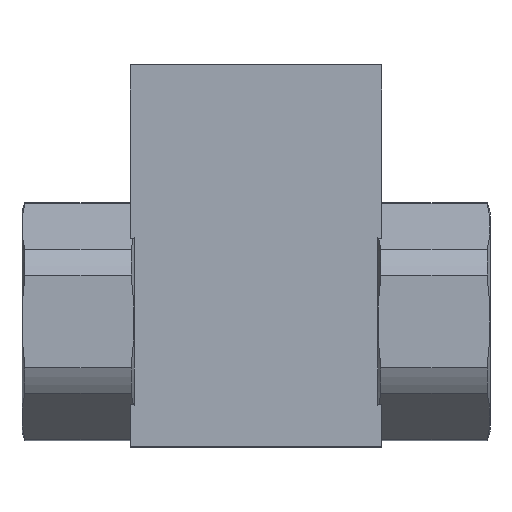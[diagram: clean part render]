
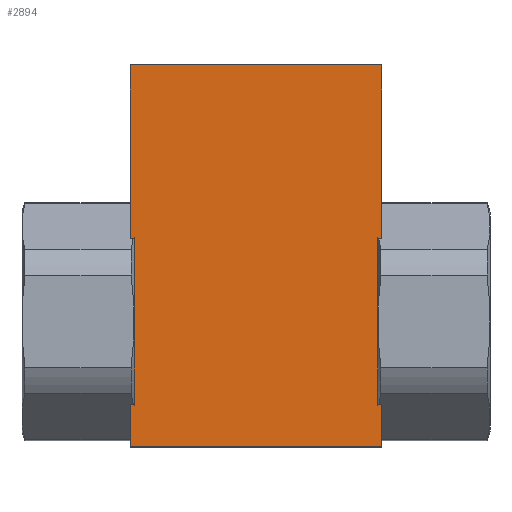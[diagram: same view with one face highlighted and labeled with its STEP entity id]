
A CAD part, top view. The second image highlights one B-rep face of the part: STEP entity #2894.
In plain terms, the highlighted planar face has unit normal (0, 0, 1).
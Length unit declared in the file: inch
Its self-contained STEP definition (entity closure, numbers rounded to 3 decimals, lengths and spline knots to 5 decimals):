
#293=DIRECTION('',(1.,0.,0.));
#294=VECTOR('',#293,1.005);
#295=CARTESIAN_POINT('',(-0.5025,-0.5,0.5));
#296=LINE('',#295,#294);
#325=DIRECTION('',(0.,1.,0.));
#326=VECTOR('',#325,0.17015);
#327=CARTESIAN_POINT('',(0.5025,-0.5,0.5));
#328=LINE('',#327,#326);
#329=DIRECTION('',(0.,1.,0.));
#330=VECTOR('',#329,0.6597);
#331=CARTESIAN_POINT('',(0.485,-0.32985,0.5));
#332=LINE('',#331,#330);
#333=DIRECTION('',(1.,0.,0.));
#334=VECTOR('',#333,0.0175);
#335=CARTESIAN_POINT('',(0.485,-0.32985,0.5));
#336=LINE('',#335,#334);
#337=DIRECTION('',(0.,1.,0.));
#338=VECTOR('',#337,0.17015);
#339=CARTESIAN_POINT('',(-0.5025,-0.5,0.5));
#340=LINE('',#339,#338);
#341=DIRECTION('',(-1.,0.,0.));
#342=VECTOR('',#341,0.0175);
#343=CARTESIAN_POINT('',(-0.485,-0.32985,0.5));
#344=LINE('',#343,#342);
#345=DIRECTION('',(0.,1.,0.));
#346=VECTOR('',#345,0.6597);
#347=CARTESIAN_POINT('',(-0.485,-0.32985,0.5));
#348=LINE('',#347,#346);
#349=DIRECTION('',(-1.,0.,0.));
#350=VECTOR('',#349,0.0175);
#351=CARTESIAN_POINT('',(-0.485,0.32985,0.5));
#352=LINE('',#351,#350);
#353=DIRECTION('',(0.,1.,0.));
#354=VECTOR('',#353,0.69415);
#355=CARTESIAN_POINT('',(-0.5025,0.32985,0.5));
#356=LINE('',#355,#354);
#357=DIRECTION('',(1.,0.,0.));
#358=VECTOR('',#357,0.0175);
#359=CARTESIAN_POINT('',(0.485,0.32985,0.5));
#360=LINE('',#359,#358);
#427=DIRECTION('',(0.,1.,0.));
#428=VECTOR('',#427,0.69415);
#429=CARTESIAN_POINT('',(0.5025,0.32985,0.5));
#430=LINE('',#429,#428);
#439=DIRECTION('',(1.,0.,0.));
#440=VECTOR('',#439,1.005);
#441=CARTESIAN_POINT('',(-0.5025,1.024,0.5));
#442=LINE('',#441,#440);
#2087=CARTESIAN_POINT('',(-0.5025,-0.5,0.5));
#2088=CARTESIAN_POINT('',(0.5025,-0.5,0.5));
#2089=VERTEX_POINT('',#2087);
#2090=VERTEX_POINT('',#2088);
#2095=CARTESIAN_POINT('',(-0.5025,1.024,0.5));
#2096=VERTEX_POINT('',#2095);
#2097=CARTESIAN_POINT('',(0.5025,1.024,0.5));
#2098=VERTEX_POINT('',#2097);
#2165=CARTESIAN_POINT('',(-0.5025,-0.32985,0.5));
#2166=VERTEX_POINT('',#2165);
#2167=CARTESIAN_POINT('',(-0.485,-0.32985,0.5));
#2168=CARTESIAN_POINT('',(-0.485,0.32985,0.5));
#2169=VERTEX_POINT('',#2167);
#2170=VERTEX_POINT('',#2168);
#2171=CARTESIAN_POINT('',(-0.5025,0.32985,0.5));
#2172=VERTEX_POINT('',#2171);
#2204=CARTESIAN_POINT('',(0.485,-0.32985,0.5));
#2205=CARTESIAN_POINT('',(0.485,0.32985,0.5));
#2206=VERTEX_POINT('',#2204);
#2207=VERTEX_POINT('',#2205);
#2208=CARTESIAN_POINT('',(0.5025,0.32985,0.5));
#2209=VERTEX_POINT('',#2208);
#2210=CARTESIAN_POINT('',(0.5025,-0.32985,0.5));
#2211=VERTEX_POINT('',#2210);
#2868=CARTESIAN_POINT('',(-0.5025,-0.5,0.5));
#2869=DIRECTION('',(0.,0.,1.));
#2870=DIRECTION('',(1.,0.,0.));
#2871=AXIS2_PLACEMENT_3D('',#2868,#2869,#2870);
#2872=PLANE('',#2871);
#2873=ORIENTED_EDGE('',*,*,#2825,.F.);
#2874=ORIENTED_EDGE('',*,*,#2850,.T.);
#2875=ORIENTED_EDGE('',*,*,#2863,.F.);
#2876=ORIENTED_EDGE('',*,*,#2808,.F.);
#2878=ORIENTED_EDGE('',*,*,#2877,.T.);
#2880=ORIENTED_EDGE('',*,*,#2879,.F.);
#2881=ORIENTED_EDGE('',*,*,#2774,.T.);
#2883=ORIENTED_EDGE('',*,*,#2882,.T.);
#2885=ORIENTED_EDGE('',*,*,#2884,.T.);
#2887=ORIENTED_EDGE('',*,*,#2886,.T.);
#2889=ORIENTED_EDGE('',*,*,#2888,.F.);
#2891=ORIENTED_EDGE('',*,*,#2890,.F.);
#2892=EDGE_LOOP('',(#2873,#2874,#2875,#2876,#2878,#2880,#2881,#2883,#2885,#2887,
#2889,#2891));
#2893=FACE_OUTER_BOUND('',#2892,.F.);
#2894=ADVANCED_FACE('',(#2893),#2872,.T.);
#2774=EDGE_CURVE('',#2169,#2170,#348,.T.);
#2808=EDGE_CURVE('',#2089,#2090,#296,.T.);
#2825=EDGE_CURVE('',#2206,#2207,#332,.T.);
#2850=EDGE_CURVE('',#2206,#2211,#336,.T.);
#2863=EDGE_CURVE('',#2090,#2211,#328,.T.);
#2877=EDGE_CURVE('',#2089,#2166,#340,.T.);
#2879=EDGE_CURVE('',#2169,#2166,#344,.T.);
#2882=EDGE_CURVE('',#2170,#2172,#352,.T.);
#2884=EDGE_CURVE('',#2172,#2096,#356,.T.);
#2886=EDGE_CURVE('',#2096,#2098,#442,.T.);
#2888=EDGE_CURVE('',#2209,#2098,#430,.T.);
#2890=EDGE_CURVE('',#2207,#2209,#360,.T.);
